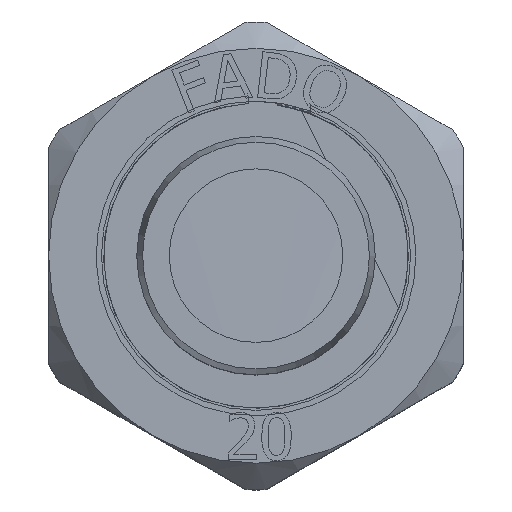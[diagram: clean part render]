
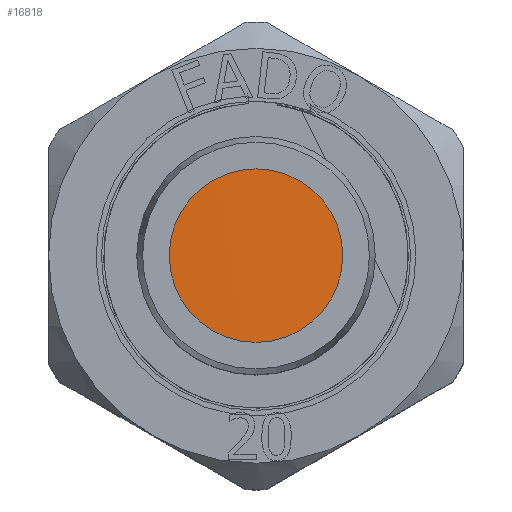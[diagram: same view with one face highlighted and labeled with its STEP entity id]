
A CAD part, top view. The second image highlights one B-rep face of the part: STEP entity #16818.
In plain terms, the highlighted cylindrical face has radius 12.522 mm (diameter 25.043 mm), a full revolution.
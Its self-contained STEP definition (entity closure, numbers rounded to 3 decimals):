
#645=B_SPLINE_CURVE_WITH_KNOTS('',3,(#27428,#27429,#27430,#27431,#27432,
#27433,#27434,#27435,#27436,#27437,#27438,#27439,#27440,#27441,#27442,#27443,
#27444),.UNSPECIFIED.,.F.,.F.,(4,1,1,1,1,1,1,1,1,1,1,1,1,1,4),(6.283,
6.583,7.077,7.572,8.066,8.561,
9.055,9.549,10.044,10.538,11.033,
11.527,12.022,12.516,12.566),
 .UNSPECIFIED.);
#1881=CYLINDRICAL_SURFACE('',#17992,12.522);
#2337=FACE_OUTER_BOUND('',#3326,.T.);
#3326=EDGE_LOOP('',(#11652,#11653,#11654));
#4449=LINE('',#26942,#5456);
#4457=LINE('',#27427,#5464);
#5456=VECTOR('',#19108,12.522);
#5464=VECTOR('',#19134,12.522);
#6975=VERTEX_POINT('',#26940);
#6976=VERTEX_POINT('',#26941);
#6992=VERTEX_POINT('',#27426);
#8814=EDGE_CURVE('',#6975,#6976,#4449,.T.);
#8838=EDGE_CURVE('',#6992,#6976,#4457,.T.);
#8839=EDGE_CURVE('',#6992,#6975,#645,.T.);
#11652=ORIENTED_EDGE('',*,*,#8814,.T.);
#11653=ORIENTED_EDGE('',*,*,#8838,.F.);
#11654=ORIENTED_EDGE('',*,*,#8839,.T.);
#16818=ADVANCED_FACE('',(#2337),#1881,.T.);
#17992=AXIS2_PLACEMENT_3D('',#27425,#19132,#19133);
#19108=DIRECTION('',(0.,0.,1.));
#19132=DIRECTION('center_axis',(0.,0.,1.));
#19133=DIRECTION('ref_axis',(0.,1.,0.));
#19134=DIRECTION('',(0.,0.,-1.));
#26940=CARTESIAN_POINT('',(0.,-12.522,11.015));
#26941=CARTESIAN_POINT('',(0.,-12.522,12.003));
#26942=CARTESIAN_POINT('',(0.,-12.522,8.511));
#27425=CARTESIAN_POINT('Origin',(0.,0.,8.511));
#27426=CARTESIAN_POINT('',(0.,-12.522,12.016));
#27427=CARTESIAN_POINT('',(0.,-12.522,8.511));
#27428=CARTESIAN_POINT('Ctrl Pts',(0.,-12.521,
12.016));
#27429=CARTESIAN_POINT('Ctrl Pts',(-1.251,-12.52,
12.));
#27430=CARTESIAN_POINT('Ctrl Pts',(-4.566,-12.026,11.958));
#27431=CARTESIAN_POINT('Ctrl Pts',(-9.303,-9.143,
11.889));
#27432=CARTESIAN_POINT('Ctrl Pts',(-12.527,-3.633,
11.81));
#27433=CARTESIAN_POINT('Ctrl Pts',(-12.751,2.747,11.732));
#27434=CARTESIAN_POINT('Ctrl Pts',(-9.921,8.469,11.653));
#27435=CARTESIAN_POINT('Ctrl Pts',(-4.714,12.162,11.574));
#27436=CARTESIAN_POINT('Ctrl Pts',(1.622,12.942,11.495));
#27437=CARTESIAN_POINT('Ctrl Pts',(7.57,10.622,11.417));
#27438=CARTESIAN_POINT('Ctrl Pts',(11.704,5.758,11.338));
#27439=CARTESIAN_POINT('Ctrl Pts',(13.034,-0.485,
11.259));
#27440=CARTESIAN_POINT('Ctrl Pts',(11.243,-6.613,11.18));
#27441=CARTESIAN_POINT('Ctrl Pts',(6.759,-11.156,11.102));
#27442=CARTESIAN_POINT('Ctrl Pts',(2.483,-12.467,11.046));
#27443=CARTESIAN_POINT('Ctrl Pts',(0.21,-12.523,
11.017));
#27444=CARTESIAN_POINT('Ctrl Pts',(0.,-12.522,
11.015));
